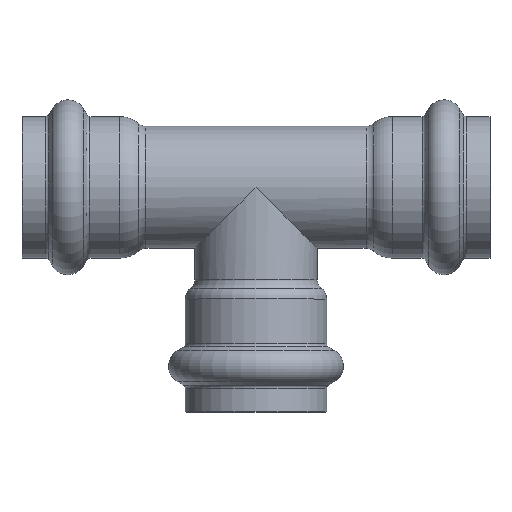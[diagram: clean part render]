
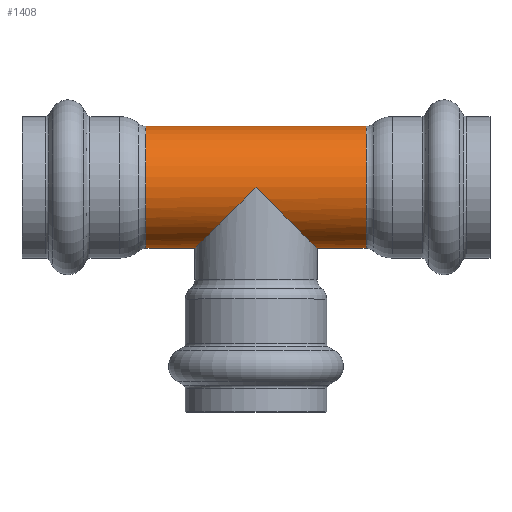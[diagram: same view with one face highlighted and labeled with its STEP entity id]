
A CAD part, top view. The second image highlights one B-rep face of the part: STEP entity #1408.
In plain terms, the highlighted cylindrical face has radius 13.335 mm (diameter 26.67 mm), a full revolution.
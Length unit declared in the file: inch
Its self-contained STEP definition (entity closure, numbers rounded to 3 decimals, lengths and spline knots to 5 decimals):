
#134=FACE_OUTER_BOUND('',#197,.T.);
#197=EDGE_LOOP('',(#1132,#1133,#1134,#1135,#1136,#1137,#1138,#1139,#1140,
#1141,#1142,#1143,#1144,#1145));
#334=CIRCLE('',#1613,0.525);
#335=CIRCLE('',#1614,0.525);
#336=CIRCLE('',#1615,0.525);
#337=CIRCLE('',#1617,0.525);
#338=CIRCLE('',#1618,0.525);
#339=CIRCLE('',#1619,0.525);
#420=LINE('',#2574,#450);
#421=LINE('',#2575,#451);
#450=VECTOR('',#2076,0.525);
#451=VECTOR('',#2077,0.525);
#464=ELLIPSE('',#1487,0.74246,0.525);
#465=ELLIPSE('',#1488,0.74246,0.525);
#466=ELLIPSE('',#1489,0.74246,0.525);
#467=ELLIPSE('',#1490,0.74246,0.525);
#492=VERTEX_POINT('',#2340);
#493=VERTEX_POINT('',#2341);
#494=VERTEX_POINT('',#2343);
#495=VERTEX_POINT('',#2345);
#572=VERTEX_POINT('',#2561);
#573=VERTEX_POINT('',#2563);
#574=VERTEX_POINT('',#2565);
#575=VERTEX_POINT('',#2569);
#576=VERTEX_POINT('',#2570);
#577=VERTEX_POINT('',#2572);
#661=EDGE_CURVE('',#492,#493,#464,.T.);
#662=EDGE_CURVE('',#494,#492,#465,.T.);
#663=EDGE_CURVE('',#495,#494,#466,.T.);
#665=EDGE_CURVE('',#493,#495,#467,.T.);
#772=EDGE_CURVE('',#573,#572,#334,.T.);
#773=EDGE_CURVE('',#574,#573,#335,.T.);
#774=EDGE_CURVE('',#572,#574,#336,.T.);
#775=EDGE_CURVE('',#575,#576,#337,.T.);
#776=EDGE_CURVE('',#577,#575,#338,.T.);
#777=EDGE_CURVE('',#577,#493,#420,.T.);
#778=EDGE_CURVE('',#494,#574,#421,.T.);
#779=EDGE_CURVE('',#576,#577,#339,.T.);
#1132=ORIENTED_EDGE('',*,*,#775,.F.);
#1133=ORIENTED_EDGE('',*,*,#776,.F.);
#1134=ORIENTED_EDGE('',*,*,#777,.T.);
#1135=ORIENTED_EDGE('',*,*,#665,.T.);
#1136=ORIENTED_EDGE('',*,*,#663,.T.);
#1137=ORIENTED_EDGE('',*,*,#778,.T.);
#1138=ORIENTED_EDGE('',*,*,#773,.T.);
#1139=ORIENTED_EDGE('',*,*,#772,.T.);
#1140=ORIENTED_EDGE('',*,*,#774,.T.);
#1141=ORIENTED_EDGE('',*,*,#778,.F.);
#1142=ORIENTED_EDGE('',*,*,#662,.T.);
#1143=ORIENTED_EDGE('',*,*,#661,.T.);
#1144=ORIENTED_EDGE('',*,*,#777,.F.);
#1145=ORIENTED_EDGE('',*,*,#779,.F.);
#1299=CYLINDRICAL_SURFACE('',#1616,0.525);
#1408=ADVANCED_FACE('',(#134),#1299,.T.);
#1487=AXIS2_PLACEMENT_3D('',#2342,#1796,#1797);
#1488=AXIS2_PLACEMENT_3D('',#2344,#1798,#1799);
#1489=AXIS2_PLACEMENT_3D('',#2346,#1800,#1801);
#1490=AXIS2_PLACEMENT_3D('',#2348,#1803,#1804);
#1613=AXIS2_PLACEMENT_3D('',#2564,#2064,#2065);
#1614=AXIS2_PLACEMENT_3D('',#2566,#2066,#2067);
#1615=AXIS2_PLACEMENT_3D('',#2567,#2068,#2069);
#1616=AXIS2_PLACEMENT_3D('',#2568,#2070,#2071);
#1617=AXIS2_PLACEMENT_3D('',#2571,#2072,#2073);
#1618=AXIS2_PLACEMENT_3D('',#2573,#2074,#2075);
#1619=AXIS2_PLACEMENT_3D('',#2576,#2078,#2079);
#1796=DIRECTION('center_axis',(0.707,0.707,0.));
#1797=DIRECTION('ref_axis',(0.707,-0.707,0.));
#1798=DIRECTION('center_axis',(-0.707,0.707,0.));
#1799=DIRECTION('ref_axis',(0.707,0.707,0.));
#1800=DIRECTION('center_axis',(-0.707,0.707,0.));
#1801=DIRECTION('ref_axis',(0.707,0.707,0.));
#1803=DIRECTION('center_axis',(0.707,0.707,0.));
#1804=DIRECTION('ref_axis',(0.707,-0.707,0.));
#2064=DIRECTION('center_axis',(1.,0.,0.));
#2065=DIRECTION('ref_axis',(0.,1.,0.));
#2066=DIRECTION('center_axis',(1.,0.,0.));
#2067=DIRECTION('ref_axis',(0.,1.,0.));
#2068=DIRECTION('center_axis',(1.,0.,0.));
#2069=DIRECTION('ref_axis',(0.,1.,0.));
#2070=DIRECTION('center_axis',(1.,0.,0.));
#2071=DIRECTION('ref_axis',(0.,1.,0.));
#2072=DIRECTION('center_axis',(1.,0.,0.));
#2073=DIRECTION('ref_axis',(0.,1.,0.));
#2074=DIRECTION('center_axis',(1.,0.,0.));
#2075=DIRECTION('ref_axis',(0.,1.,0.));
#2076=DIRECTION('',(-1.,0.,0.));
#2077=DIRECTION('',(-1.,0.,0.));
#2078=DIRECTION('center_axis',(1.,0.,0.));
#2079=DIRECTION('ref_axis',(0.,1.,0.));
#2340=CARTESIAN_POINT('',(0.,0.,0.525));
#2341=CARTESIAN_POINT('',(0.525,-0.525,0.));
#2342=CARTESIAN_POINT('Origin',(0.,0.,0.));
#2343=CARTESIAN_POINT('',(-0.525,-0.525,0.));
#2344=CARTESIAN_POINT('Origin',(0.,0.,0.));
#2345=CARTESIAN_POINT('',(0.,0.,-0.525));
#2346=CARTESIAN_POINT('Origin',(0.,0.,0.));
#2348=CARTESIAN_POINT('Origin',(0.,0.,0.));
#2561=CARTESIAN_POINT('',(-0.94528,0.,0.525));
#2563=CARTESIAN_POINT('',(-0.94528,0.525,0.));
#2564=CARTESIAN_POINT('Origin',(-0.94528,0.,0.));
#2565=CARTESIAN_POINT('',(-0.94528,-0.525,0.));
#2566=CARTESIAN_POINT('Origin',(-0.94528,0.,0.));
#2567=CARTESIAN_POINT('Origin',(-0.94528,0.,0.));
#2568=CARTESIAN_POINT('Origin',(0.47264,0.,0.));
#2569=CARTESIAN_POINT('',(0.94528,0.525,0.));
#2570=CARTESIAN_POINT('',(0.94528,0.,0.525));
#2571=CARTESIAN_POINT('Origin',(0.94528,0.,0.));
#2572=CARTESIAN_POINT('',(0.94528,-0.525,0.));
#2573=CARTESIAN_POINT('Origin',(0.94528,0.,0.));
#2574=CARTESIAN_POINT('',(0.47264,-0.525,0.));
#2575=CARTESIAN_POINT('',(0.47264,-0.525,0.));
#2576=CARTESIAN_POINT('Origin',(0.94528,0.,0.));
